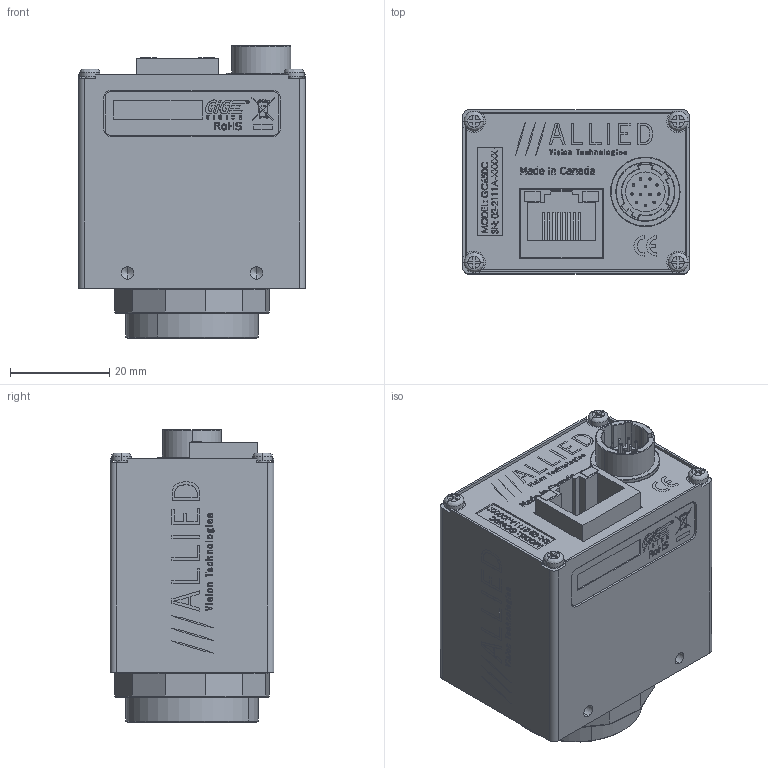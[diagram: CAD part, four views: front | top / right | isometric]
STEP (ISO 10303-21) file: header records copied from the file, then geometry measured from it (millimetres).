
FILE_DESCRIPTION (( 'STEP AP214' ), '1' );
FILE_NAME ('GC650C.STEP', '2013-07-31T17:32:34', ( '' ), ( '' ), 'SwSTEP 2.0', 'SolidWorks 2013', '' );
FILE_SCHEMA (( 'AUTOMOTIVE_DESIGN' ));
Length unit declared in the file: millimetre
Products named in the file (23): 140017-SCREW PAN M2x4 SS; 220074-SONY ICX424AQ; 140013-washer spring lock M2; SONY ICX424 BODY; SONY ICX424 WINDOW; GC650C; 110003AC-CV CMOUNT RING; 200047A-A GC INTERFACE PCB ASSY; 260033-AMPHENOL RJHS-3381; 110042C GC-CCD FRONT_Finished with logo; 110031A-B EC-CCD LOCKING RING; 110045B-EC-CCD DUST SHIELD GASKET; 740123A-GC MAC LABEL; 740032B-GC MAIN LABEL; 140023-SCREW SKT CAP M2x10 SS; 110043A GC BACK PLATE; 110043A GC BACK PLATE - WO HW; 740038A-A GC650C LABEL PRINT; 100097A-IR FILTER ASSEMBLY 0.75 INCH; 440002-IR CUT FILTER 22MM DIA; 110054AB-IR FILTER SUPPORT; 260034-HIROSE HR10A-10R-12PB; 200039A-EC650 COLOR PCB ASSY
Assembly tree (27 placements, depth 4):
  GC650C
    140013-washer spring lock M2  x2
    140017-SCREW PAN M2x4 SS  x4
    260034-HIROSE HR10A-10R-12PB
    100097A-IR FILTER ASSEMBLY 0.75 INCH
      110054AB-IR FILTER SUPPORT
      440002-IR CUT FILTER 22MM DIA
    740038A-A GC650C LABEL PRINT
    110043A GC BACK PLATE
      110043A GC BACK PLATE - WO HW
    140023-SCREW SKT CAP M2x10 SS  x2
    740032B-GC MAIN LABEL
    740123A-GC MAC LABEL
    110045B-EC-CCD DUST SHIELD GASKET
    110031A-B EC-CCD LOCKING RING
    110042C GC-CCD FRONT_Finished with logo
    200047A-A GC INTERFACE PCB ASSY
      260033-AMPHENOL RJHS-3381
    110003AC-CV CMOUNT RING
    200039A-EC650 COLOR PCB ASSY
      220074-SONY ICX424AQ
        SONY ICX424 WINDOW
        SONY ICX424 BODY
Bounding box: 45.72 x 33.02 x 58.96 mm (x, y, z)
Volume: 22762.9 mm3; surface area: 33102.3 mm2
Topology: 22 solids, 22 shells, 3286 faces, 8635 edges, 5604 vertices
Faces by surface type: plane 1890, bspline 906, cylinder 292, cone 198
Entity records: 165274 total; most frequent: CARTESIAN_POINT 56776, ORIENTED_EDGE 16590, DIRECTION 11921, EDGE_CURVE 8295, VECTOR 5741, LINE 5741, VERTEX_POINT 5434, EDGE_LOOP 3513
